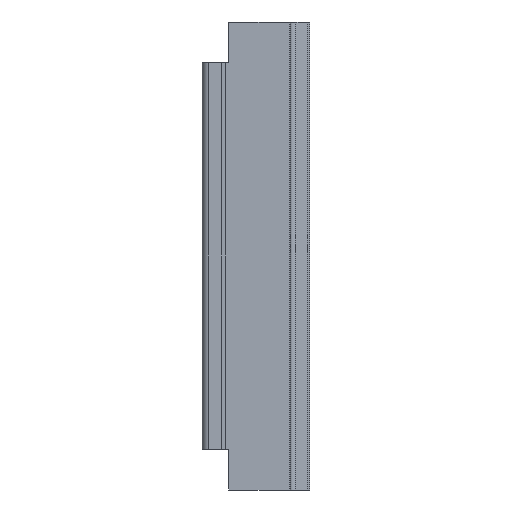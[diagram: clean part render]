
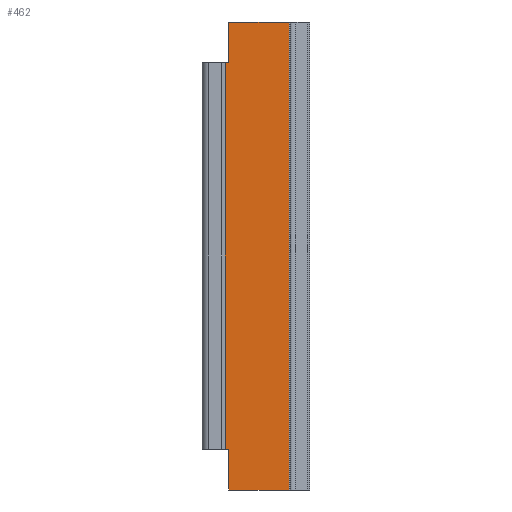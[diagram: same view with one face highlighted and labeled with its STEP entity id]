
A CAD part, left-side view. The second image highlights one B-rep face of the part: STEP entity #462.
In plain terms, the highlighted planar face has unit normal (-1, 0, 0).
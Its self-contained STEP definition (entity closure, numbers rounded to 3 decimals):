
#19 = VERTEX_POINT ( 'NONE', #1190 ) ;
#30 = VERTEX_POINT ( 'NONE', #1201 ) ;
#93 = CARTESIAN_POINT ( 'NONE',  ( -2.8, -17.7, 418. ) ) ;
#100 = DIRECTION ( 'NONE',  ( 0., 0., -1. ) ) ;
#145 = CARTESIAN_POINT ( 'NONE',  ( -2.8, -72.063, 418. ) ) ;
#146 = DIRECTION ( 'NONE',  ( 0., 0., 1. ) ) ;
#165 = CARTESIAN_POINT ( 'NONE',  ( -2.8, -14.555, 381.5 ) ) ;
#166 = DIRECTION ( 'NONE',  ( 0., 1., 0. ) ) ;
#201 = LINE ( 'NONE', #928, #314 ) ;
#213 = LINE ( 'NONE', #903, #258 ) ;
#220 = LINE ( 'NONE', #93, #225 ) ;
#225 = VECTOR ( 'NONE', #100, 1000. ) ;
#258 = VECTOR ( 'NONE', #906, 1000. ) ;
#286 = VECTOR ( 'NONE', #960, 1000. ) ;
#293 = LINE ( 'NONE', #957, #286 ) ;
#304 = VECTOR ( 'NONE', #941, 1000. ) ;
#307 = VECTOR ( 'NONE', #937, 1000. ) ;
#308 = LINE ( 'NONE', #936, #307 ) ;
#314 = VECTOR ( 'NONE', #933, 1000. ) ;
#317 = LINE ( 'NONE', #934, #304 ) ;
#332 = VECTOR ( 'NONE', #146, 1000. ) ;
#349 = LINE ( 'NONE', #145, #332 ) ;
#363 = VECTOR ( 'NONE', #166, 1000. ) ;
#364 = LINE ( 'NONE', #165, #363 ) ;
#391 = CARTESIAN_POINT ( 'NONE',  ( -2.8, -72.063, 418. ) ) ;
#398 = CARTESIAN_POINT ( 'NONE',  ( -2.8, -72.063, 0. ) ) ;
#404 = CARTESIAN_POINT ( 'NONE',  ( -2.8, -17.7, 36.5 ) ) ;
#406 = CARTESIAN_POINT ( 'NONE',  ( -2.8, -14.928, 36.5 ) ) ;
#410 = CARTESIAN_POINT ( 'NONE',  ( -2.8, -17.7, 381.5 ) ) ;
#413 = CARTESIAN_POINT ( 'NONE',  ( -2.8, -14.928, 381.5 ) ) ;
#462 = ADVANCED_FACE ( 'NONE', ( #518 ), #1303, .F. ) ;
#518 = FACE_OUTER_BOUND ( 'NONE', #781, .T. ) ;
#594 = ORIENTED_EDGE ( 'NONE', *, *, #1010, .T. ) ;
#595 = ORIENTED_EDGE ( 'NONE', *, *, #1133, .T. ) ;
#596 = ORIENTED_EDGE ( 'NONE', *, *, #1032, .T. ) ;
#597 = ORIENTED_EDGE ( 'NONE', *, *, #1030, .T. ) ;
#598 = ORIENTED_EDGE ( 'NONE', *, *, #1083, .T. ) ;
#599 = ORIENTED_EDGE ( 'NONE', *, *, #1045, .T. ) ;
#600 = ORIENTED_EDGE ( 'NONE', *, *, #1124, .T. ) ;
#601 = ORIENTED_EDGE ( 'NONE', *, *, #1027, .F. ) ;
#781 = EDGE_LOOP ( 'NONE', ( #594, #595, #596, #597, #598, #599, #600, #601 ) ) ;
#903 = CARTESIAN_POINT ( 'NONE',  ( -2.8, -17.7, 418. ) ) ;
#906 = DIRECTION ( 'NONE',  ( 0., 0., -1. ) ) ;
#928 = CARTESIAN_POINT ( 'NONE',  ( -2.8, -14.555, 418. ) ) ;
#933 = DIRECTION ( 'NONE',  ( 0., -1., 0. ) ) ;
#934 = CARTESIAN_POINT ( 'NONE',  ( -2.8, -14.928, 418. ) ) ;
#936 = CARTESIAN_POINT ( 'NONE',  ( -2.8, -14.555, 36.5 ) ) ;
#937 = DIRECTION ( 'NONE',  ( 0., -1., 0. ) ) ;
#941 = DIRECTION ( 'NONE',  ( 0., 0., -1. ) ) ;
#957 = CARTESIAN_POINT ( 'NONE',  ( -2.8, -14.555, 0. ) ) ;
#960 = DIRECTION ( 'NONE',  ( 0., -1., 0. ) ) ;
#1002 = AXIS2_PLACEMENT_3D ( 'NONE', #1306, #1315, #1316 ) ;
#1010 = EDGE_CURVE ( 'NONE', #30, #1175, #213, .T. ) ;
#1027 = EDGE_CURVE ( 'NONE', #30, #1162, #201, .T. ) ;
#1030 = EDGE_CURVE ( 'NONE', #1171, #1169, #308, .T. ) ;
#1032 = EDGE_CURVE ( 'NONE', #1178, #1171, #317, .T. ) ;
#1045 = EDGE_CURVE ( 'NONE', #19, #1163, #293, .T. ) ;
#1083 = EDGE_CURVE ( 'NONE', #1169, #19, #220, .T. ) ;
#1124 = EDGE_CURVE ( 'NONE', #1163, #1162, #349, .T. ) ;
#1133 = EDGE_CURVE ( 'NONE', #1175, #1178, #364, .T. ) ;
#1162 = VERTEX_POINT ( 'NONE', #391 ) ;
#1163 = VERTEX_POINT ( 'NONE', #398 ) ;
#1169 = VERTEX_POINT ( 'NONE', #404 ) ;
#1171 = VERTEX_POINT ( 'NONE', #406 ) ;
#1175 = VERTEX_POINT ( 'NONE', #410 ) ;
#1178 = VERTEX_POINT ( 'NONE', #413 ) ;
#1190 = CARTESIAN_POINT ( 'NONE',  ( -2.8, -17.7, 0. ) ) ;
#1201 = CARTESIAN_POINT ( 'NONE',  ( -2.8, -17.7, 418. ) ) ;
#1303 = PLANE ( 'NONE',  #1002 ) ;
#1306 = CARTESIAN_POINT ( 'NONE',  ( -2.8, -14.555, 418. ) ) ;
#1315 = DIRECTION ( 'NONE',  ( 1., 0., 0. ) ) ;
#1316 = DIRECTION ( 'NONE',  ( 0., 1., 0. ) ) ;
